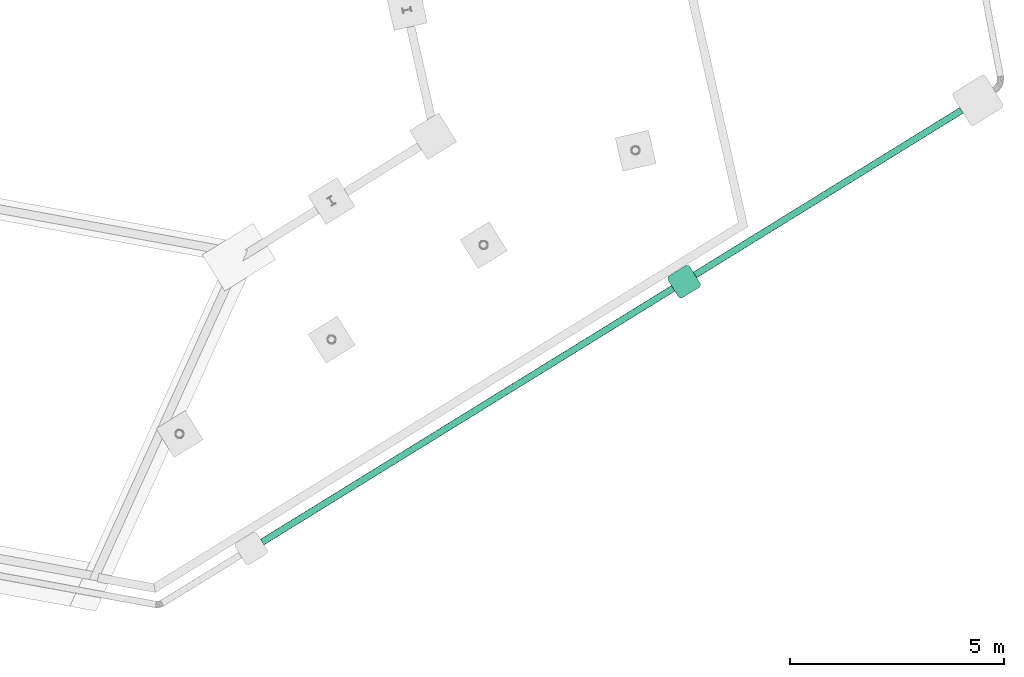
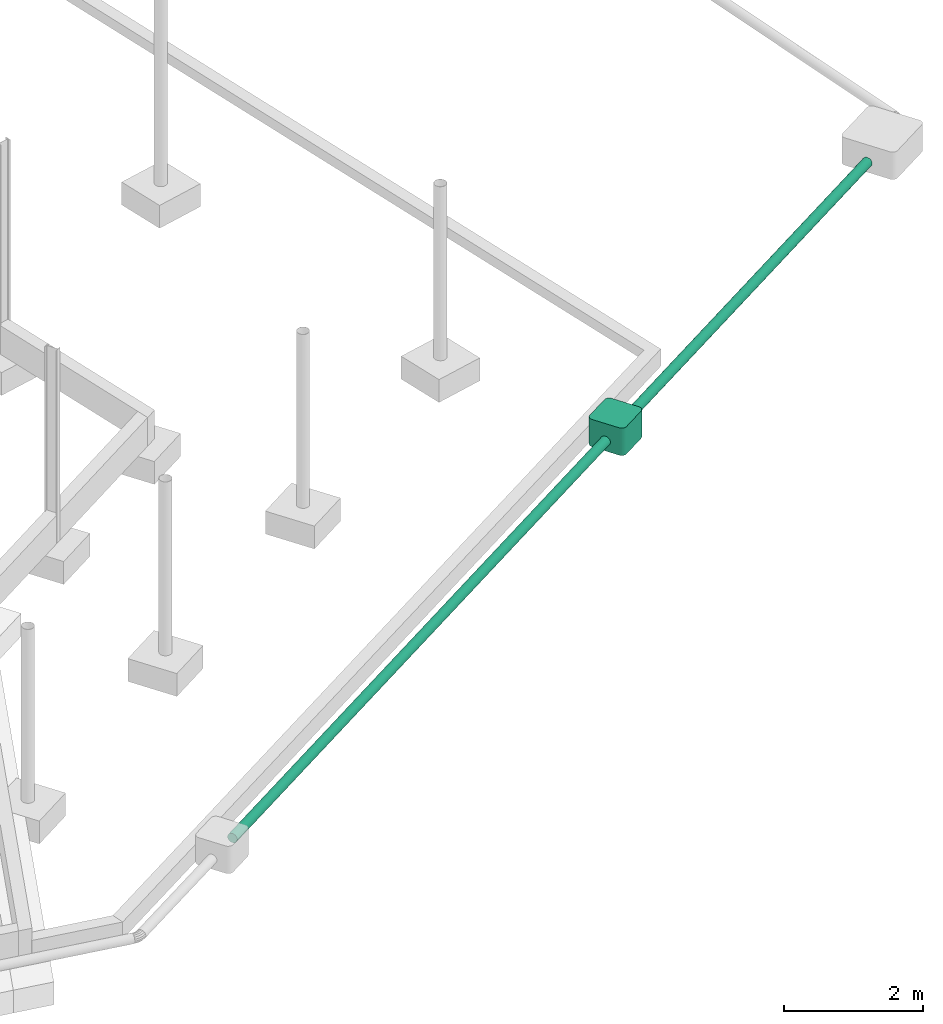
# One storey, part 9 of 17: 2 flow segments, 1 flow controller.
"""IFC2X3 building model written with IfcOpenShell, lengths in centimetres."""

from ifc_helpers import new_model, entity, si_unit, converted_unit, derived_unit, direction, frame, frame_2d, origin, origin_2d_with_axis, place, context, subcontext, project, spatial, circle, extrude, faceted_brep, source, transform, mapped, material, type_object, type_shapes, element, save


model = new_model("IFC2X3")

# Units and contexts
model_context = context("Model", 3, precision=0.001, world=origin(), true_north=direction((6.12303176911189e-17, 1.0)))
body_context = subcontext(model_context, "Body", "Model", "MODEL_VIEW")
ifc_project = project(units=[si_unit("LENGTHUNIT", "METRE", prefix="CENTI"), si_unit("AREAUNIT", "SQUARE_METRE"), si_unit("VOLUMEUNIT", "CUBIC_METRE"), converted_unit("PLANEANGLEUNIT", "DEGREE", entity("IfcRatioMeasure", 0.0174532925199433), si_unit("PLANEANGLEUNIT", "RADIAN"), dimensions=[0, 0, 0, 0, 0, 0, 0]), si_unit("MASSUNIT", "GRAM", prefix="KILO"), derived_unit("MASSDENSITYUNIT", [(si_unit("MASSUNIT", "GRAM", prefix="KILO"), 1), (si_unit("LENGTHUNIT", "METRE"), -3)]), si_unit("TIMEUNIT", "SECOND"), si_unit("FREQUENCYUNIT", "HERTZ"), si_unit("THERMODYNAMICTEMPERATUREUNIT", "DEGREE_CELSIUS"), derived_unit("THERMALTRANSMITTANCEUNIT", [(si_unit("MASSUNIT", "GRAM", prefix="KILO"), 1), (si_unit("THERMODYNAMICTEMPERATUREUNIT", "KELVIN"), -1), (si_unit("TIMEUNIT", "SECOND"), -3)]), derived_unit("VOLUMETRICFLOWRATEUNIT", [(si_unit("LENGTHUNIT", "METRE"), 3), (si_unit("TIMEUNIT", "SECOND"), -1)]), si_unit("ELECTRICCURRENTUNIT", "AMPERE"), si_unit("ELECTRICVOLTAGEUNIT", "VOLT"), si_unit("POWERUNIT", "WATT"), si_unit("FORCEUNIT", "NEWTON", prefix="KILO"), si_unit("ILLUMINANCEUNIT", "LUX"), si_unit("LUMINOUSFLUXUNIT", "LUMEN"), si_unit("LUMINOUSINTENSITYUNIT", "CANDELA"), derived_unit("USERDEFINED", [(si_unit("MASSUNIT", "GRAM", prefix="KILO"), -1), (si_unit("LENGTHUNIT", "METRE"), -2), (si_unit("TIMEUNIT", "SECOND"), 3), (si_unit("LUMINOUSFLUXUNIT", "LUMEN"), 1)]), derived_unit("LINEARVELOCITYUNIT", [(si_unit("LENGTHUNIT", "METRE"), 1), (si_unit("TIMEUNIT", "SECOND"), -1)]), si_unit("PRESSUREUNIT", "PASCAL"), derived_unit("USERDEFINED", [(si_unit("LENGTHUNIT", "METRE"), -2), (si_unit("MASSUNIT", "GRAM", prefix="KILO"), 1), (si_unit("TIMEUNIT", "SECOND"), -2)])], contexts=[model_context])

# Site, building, storey
site_placement = place(None, frame((2611.71187422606, 13650.4058644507, 0.0), z_axis=(0.0, 0.0, 1.0), x_axis=(0.0673222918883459, -0.997731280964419, 0.0)))
site = spatial("IfcSite", under=ifc_project, at=site_placement, Name="Surface", CompositionType="ELEMENT")
building_placement = place(site_placement, origin())
building = spatial("IfcBuilding", under=site, at=building_placement, CompositionType="ELEMENT")
storey_placement = place(building_placement, frame((0.0, 0.0, 86950.0)))
storey = spatial("IfcBuildingStorey", under=building, at=storey_placement, Name="-1 Soubassement", CompositionType="ELEMENT", Elevation=86950.0)

# Flow controller
ifc_material = material(Name="Béton, précoulé")
valve_type = type_object("IfcValveType", Name="Regard EP 600x600", PredefinedType="NOTDEFINED", material=ifc_material)
shared_shape = source(origin(), body_context, "Body", "Brep", [
    faceted_brep([(56.1595272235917, 59.0877304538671, 48.0), (54.2300795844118, 59.8869338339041, 48.0), (52.1595272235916, 60.1595272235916, 48.0), (8.15952722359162, 60.1595272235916, 48.0), (6.08897486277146, 59.8869338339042, 48.0), (4.15952722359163, 59.0877304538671, 48.0), (2.50267297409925, 57.816381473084, 48.0), (1.23132399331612, 56.1595272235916, 48.0), (0.432120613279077, 54.2300795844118, 48.0), (0.159527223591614, 52.1595272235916, 48.0), (0.1595272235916, 8.15952722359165, 48.0), (0.432120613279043, 6.08897486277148, 48.0), (1.23132399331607, 4.15952722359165, 48.0), (2.50267297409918, 2.50267297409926, 48.0), (4.15952722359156, 1.23132399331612, 48.0), (6.08897486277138, 0.43212061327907, 48.0), (8.15952722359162, 0.159527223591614, 48.0), (52.1595272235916, 0.159527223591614, 48.0), (54.2300795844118, 0.43212061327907, 48.0), (56.1595272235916, 1.2313239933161, 48.0), (57.816381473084, 2.50267297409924, 48.0), (59.0877304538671, 4.15952722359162, 48.0), (59.8869338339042, 6.08897486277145, 48.0), (60.1595272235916, 8.15952722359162, 48.0), (60.1595272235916, 52.1595272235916, 48.0), (59.8869338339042, 54.2300795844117, 48.0), (59.0877304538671, 56.1595272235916, 48.0), (57.816381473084, 57.816381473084, 48.0), (2.50267297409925, 57.816381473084, 43.0), (4.15952722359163, 59.0877304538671, 43.0), (6.08897486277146, 59.8869338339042, 43.0), (8.15952722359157, 60.1595272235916, 43.0), (52.1595272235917, 60.1595272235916, 43.0), (54.2300795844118, 59.8869338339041, 43.0), (56.1595272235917, 59.0877304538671, 43.0), (57.816381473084, 57.816381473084, 43.0), (59.0877304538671, 56.1595272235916, 43.0), (59.8869338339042, 54.2300795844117, 43.0), (60.1595272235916, 52.1595272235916, 43.0), (60.1595272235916, 8.15952722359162, 43.0), (59.8869338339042, 6.08897486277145, 43.0), (59.0877304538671, 4.15952722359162, 43.0), (57.816381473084, 2.50267297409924, 43.0), (56.1595272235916, 1.2313239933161, 43.0), (54.2300795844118, 0.43212061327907, 43.0), (52.1595272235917, 0.159527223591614, 43.0), (8.15952722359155, 0.1595272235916, 43.0), (6.08897486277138, 0.43212061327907, 43.0), (4.15952722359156, 1.23132399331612, 43.0), (2.50267297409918, 2.50267297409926, 43.0), (1.23132399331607, 4.15952722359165, 43.0), (0.432120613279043, 6.08897486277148, 43.0), (0.1595272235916, 8.1595272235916, 43.0), (0.159527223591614, 52.1595272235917, 43.0), (0.432120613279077, 54.2300795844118, 43.0), (1.23132399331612, 56.1595272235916, 43.0)], [[[0, 1, 2, 3, 4, 5, 6, 7, 8, 9, 10, 11, 12, 13, 14, 15, 16, 17, 18, 19, 20, 21, 22, 23, 24, 25, 26, 27]], [[28, 29, 30, 31, 32, 33, 34, 35, 36, 37, 38, 39, 40, 41, 42, 43, 44, 45, 46, 47, 48, 49, 50, 51, 52, 53, 54, 55]], [[3, 2, 32, 31]], [[4, 3, 31, 30]], [[5, 4, 30, 29]], [[6, 5, 29, 28]], [[54, 53, 9, 8]], [[7, 6, 28, 55]], [[55, 54, 8, 7]], [[10, 9, 53, 52]], [[11, 10, 52, 51]], [[12, 11, 51, 50]], [[13, 12, 50, 49]], [[47, 46, 16, 15]], [[14, 48, 47, 15]], [[48, 14, 13, 49]], [[17, 16, 46, 45]], [[18, 17, 45, 44]], [[19, 18, 44, 43]], [[20, 19, 43, 42]], [[42, 41, 21, 20]], [[21, 41, 40, 22]], [[23, 22, 40, 39]], [[24, 23, 39, 38]], [[25, 24, 38, 37]], [[26, 25, 37, 36]], [[27, 26, 36, 35]], [[0, 27, 35, 34]], [[0, 34, 33, 1]], [[33, 32, 2, 1]]]),
    faceted_brep([(6.08897486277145, 59.8869338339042, 0.0), (8.15952722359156, 60.1595272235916, 0.0), (52.1595272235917, 60.1595272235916, 0.0), (54.2300795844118, 59.8869338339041, 0.0), (56.1595272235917, 59.0877304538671, 0.0), (57.816381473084, 57.816381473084, 0.0), (59.0877304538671, 56.1595272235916, 0.0), (59.8869338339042, 54.2300795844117, 0.0), (60.1595272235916, 52.1595272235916, 0.0), (60.1595272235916, 8.15952722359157, 0.0), (59.8869338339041, 6.0889748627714, 0.0), (59.0877304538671, 4.15952722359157, 0.0), (57.816381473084, 2.5026729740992, 0.0), (56.1595272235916, 1.23132399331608, 0.0), (54.2300795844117, 0.432120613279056, 0.0), (52.1595272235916, 0.159527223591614, 0.0), (8.15952722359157, 0.159527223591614, 0.0), (6.0889748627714, 0.432120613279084, 0.0), (4.15952722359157, 1.23132399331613, 0.0), (2.5026729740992, 2.50267297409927, 0.0), (1.23132399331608, 4.15952722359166, 0.0), (0.432120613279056, 6.08897486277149, 0.0), (0.159527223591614, 8.15952722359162, 0.0), (0.159527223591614, 52.1595272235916, 0.0), (0.43212061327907, 54.2300795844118, 0.0), (1.23132399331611, 56.1595272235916, 0.0), (2.50267297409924, 57.816381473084, 0.0), (4.15952722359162, 59.0877304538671, 0.0), (52.1595272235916, 60.1595272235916, 5.0), (8.15952722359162, 60.1595272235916, 5.0), (6.08897486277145, 59.8869338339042, 5.0), (4.15952722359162, 59.0877304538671, 5.0), (2.50267297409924, 57.816381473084, 5.0), (1.23132399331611, 56.1595272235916, 5.0), (0.43212061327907, 54.2300795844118, 5.0), (0.159527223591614, 52.1595272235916, 5.0), (0.159527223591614, 8.15952722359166, 5.0), (0.432120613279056, 6.08897486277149, 5.0), (1.23132399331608, 4.15952722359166, 5.0), (2.5026729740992, 2.50267297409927, 5.0), (4.15952722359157, 1.23132399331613, 5.0), (6.0889748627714, 0.432120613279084, 5.0), (8.15952722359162, 0.159527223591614, 5.0), (52.1595272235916, 0.159527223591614, 5.0), (54.2300795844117, 0.432120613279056, 5.0), (56.1595272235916, 1.23132399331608, 5.0), (57.816381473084, 2.5026729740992, 5.0), (59.0877304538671, 4.15952722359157, 5.0), (59.8869338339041, 6.0889748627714, 5.0), (60.1595272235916, 8.15952722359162, 5.0), (60.1595272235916, 52.1595272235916, 5.0), (59.8869338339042, 54.2300795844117, 5.0), (59.0877304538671, 56.1595272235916, 5.0), (57.816381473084, 57.816381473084, 5.0), (56.1595272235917, 59.0877304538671, 5.0), (54.2300795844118, 59.8869338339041, 5.0)], [[[0, 1, 2, 3, 4, 5, 6, 7, 8, 9, 10, 11, 12, 13, 14, 15, 16, 17, 18, 19, 20, 21, 22, 23, 24, 25, 26, 27]], [[28, 29, 30, 31, 32, 33, 34, 35, 36, 37, 38, 39, 40, 41, 42, 43, 44, 45, 46, 47, 48, 49, 50, 51, 52, 53, 54, 55]], [[29, 28, 2, 1]], [[36, 35, 23, 22]], [[43, 42, 16, 15]], [[50, 49, 9, 8]], [[30, 29, 1, 0]], [[31, 30, 0, 27]], [[32, 31, 27, 26]], [[24, 23, 35, 34]], [[33, 32, 26, 25]], [[25, 24, 34, 33]], [[37, 36, 22, 21]], [[38, 37, 21, 20]], [[39, 38, 20, 19]], [[17, 16, 42, 41]], [[40, 18, 17, 41]], [[18, 40, 39, 19]], [[44, 43, 15, 14]], [[45, 44, 14, 13]], [[46, 45, 13, 12]], [[12, 11, 47, 46]], [[47, 11, 10, 48]], [[49, 48, 10, 9]], [[51, 50, 8, 7]], [[52, 51, 7, 6]], [[53, 52, 6, 5]], [[54, 53, 5, 4]], [[54, 4, 3, 55]], [[3, 2, 28, 55]]]),
    faceted_brep([(56.1595272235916, 1.23132399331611, 43.0), (53.6595272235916, 5.56145101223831, 43.0), (54.2300795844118, 0.432120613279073, 43.0), (54.2808475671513, 6.03820688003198, 43.0), (57.816381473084, 2.50267297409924, 43.0), (59.0877304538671, 4.15952722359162, 43.0), (54.7576034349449, 6.65952722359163, 43.0), (59.8869338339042, 6.08897486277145, 43.0), (55.0573047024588, 7.38307008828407, 43.0), (60.1595272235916, 8.15952722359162, 43.0), (55.1595272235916, 8.15952722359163, 43.0), (55.1595272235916, 52.1595272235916, 43.0), (60.1595272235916, 52.1595272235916, 43.0), (55.0573047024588, 52.9359843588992, 43.0), (59.8869338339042, 54.2300795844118, 43.0), (54.7576034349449, 53.6595272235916, 43.0), (59.0877304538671, 56.1595272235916, 43.0), (54.2808475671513, 54.2808475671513, 43.0), (57.816381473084, 57.816381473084, 43.0), (56.1595272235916, 59.0877304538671, 43.0), (53.6595272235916, 54.7576034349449, 43.0), (54.2300795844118, 59.8869338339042, 43.0), (52.9359843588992, 55.0573047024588, 43.0), (52.1595272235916, 60.1595272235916, 43.0), (52.1595272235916, 55.1595272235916, 43.0), (8.15952722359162, 55.1595272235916, 43.0), (8.15952722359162, 60.1595272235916, 43.0), (7.38307008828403, 55.0573047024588, 43.0), (6.08897486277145, 59.8869338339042, 43.0), (6.6595272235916, 54.7576034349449, 43.0), (4.15952722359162, 59.0877304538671, 43.0), (6.03820688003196, 54.2808475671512, 43.0), (2.50267297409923, 57.816381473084, 43.0), (1.2313239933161, 56.1595272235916, 43.0), (5.56145101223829, 53.6595272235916, 43.0), (0.43212061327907, 54.2300795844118, 43.0), (5.26174974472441, 52.9359843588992, 43.0), (0.159527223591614, 52.1595272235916, 43.0), (5.15952722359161, 52.1595272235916, 43.0), (0.159527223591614, 8.15952722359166, 43.0), (5.15952722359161, 8.1595272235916, 43.0), (5.26174974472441, 7.38307008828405, 43.0), (0.432120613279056, 6.08897486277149, 43.0), (5.5614510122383, 6.65952722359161, 43.0), (1.23132399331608, 4.15952722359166, 43.0), (6.03820688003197, 6.03820688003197, 43.0), (2.5026729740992, 2.50267297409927, 43.0), (4.15952722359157, 1.23132399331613, 43.0), (6.65952722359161, 5.56145101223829, 43.0), (6.0889748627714, 0.43212061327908, 43.0), (7.38307008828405, 5.26174974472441, 43.0), (8.15952722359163, 0.15952722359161, 43.0), (8.15952722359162, 5.15952722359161, 43.0), (52.1595272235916, 0.15952722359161, 43.0), (52.9359843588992, 5.26174974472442, 43.0), (52.1595272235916, 5.15952722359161, 43.0), (56.1595272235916, 59.0877304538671, 5.0), (53.6595272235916, 54.7576034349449, 5.0), (54.2300795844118, 59.8869338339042, 5.0), (54.2808475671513, 54.2808475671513, 5.0), (57.816381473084, 57.816381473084, 5.0), (59.0877304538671, 56.1595272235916, 5.0), (54.7576034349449, 53.6595272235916, 5.0), (59.8869338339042, 54.2300795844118, 5.0), (55.0573047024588, 52.9359843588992, 5.0), (60.1595272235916, 52.1595272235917, 5.0), (55.1595272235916, 52.1595272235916, 5.0), (55.1595272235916, 8.15952722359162, 5.0), (60.1595272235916, 8.15952722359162, 5.0), (55.0573047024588, 7.38307008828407, 5.0), (59.8869338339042, 6.08897486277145, 5.0), (54.7576034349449, 6.65952722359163, 5.0), (59.0877304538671, 4.15952722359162, 5.0), (54.2808475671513, 6.03820688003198, 5.0), (57.816381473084, 2.50267297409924, 5.0), (56.1595272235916, 1.23132399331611, 5.0), (53.6595272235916, 5.56145101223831, 5.0), (54.2300795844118, 0.432120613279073, 5.0), (52.9359843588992, 5.26174974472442, 5.0), (52.1595272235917, 0.15952722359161, 5.0), (52.1595272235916, 5.15952722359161, 5.0), (8.1595272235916, 5.15952722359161, 5.0), (8.15952722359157, 0.15952722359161, 5.0), (7.38307008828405, 5.26174974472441, 5.0), (6.0889748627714, 0.43212061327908, 5.0), (6.65952722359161, 5.56145101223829, 5.0), (4.15952722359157, 1.23132399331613, 5.0), (6.03820688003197, 6.03820688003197, 5.0), (2.5026729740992, 2.50267297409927, 5.0), (1.23132399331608, 4.15952722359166, 5.0), (5.5614510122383, 6.65952722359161, 5.0), (0.432120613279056, 6.08897486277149, 5.0), (5.26174974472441, 7.38307008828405, 5.0), (0.159527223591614, 8.15952722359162, 5.0), (5.15952722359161, 8.15952722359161, 5.0), (0.159527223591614, 52.1595272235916, 5.0), (5.15952722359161, 52.1595272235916, 5.0), (5.26174974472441, 52.9359843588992, 5.0), (0.43212061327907, 54.2300795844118, 5.0), (5.56145101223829, 53.6595272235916, 5.0), (1.2313239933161, 56.1595272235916, 5.0), (6.03820688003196, 54.2808475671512, 5.0), (2.50267297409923, 57.816381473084, 5.0), (4.15952722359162, 59.0877304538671, 5.0), (6.6595272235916, 54.7576034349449, 5.0), (6.08897486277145, 59.8869338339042, 5.0), (7.38307008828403, 55.0573047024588, 5.0), (8.15952722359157, 60.1595272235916, 5.0), (8.1595272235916, 55.1595272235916, 5.0), (52.1595272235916, 60.1595272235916, 5.0), (52.9359843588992, 55.0573047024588, 5.0), (52.1595272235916, 55.1595272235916, 5.0), (34.1595272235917, 60.1595272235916, 24.9282032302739), (32.2300795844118, 60.1595272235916, 25.7274066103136), (35.8163814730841, 60.1595272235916, 23.6568542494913), (30.1595272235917, 60.1595272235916, 26.0), (37.0877304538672, 60.1595272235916, 22.0), (37.8869338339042, 60.1595272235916, 20.0705523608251), (38.1595272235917, 60.1595272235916, 18.0), (37.8869338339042, 60.1595272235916, 15.9294476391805), (37.0877304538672, 60.1595272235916, 14.0), (35.8163814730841, 60.1595272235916, 12.3431457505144), (34.1595272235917, 60.1595272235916, 11.0717967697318), (32.2300795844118, 60.1595272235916, 10.2725933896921), (30.1595272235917, 60.1595272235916, 10.0), (22.4321206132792, 60.1595272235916, 20.0705523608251), (28.0889748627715, 60.1595272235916, 10.2725933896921), (26.1595272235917, 60.1595272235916, 11.0717967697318), (24.5026729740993, 60.1595272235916, 12.3431457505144), (23.2313239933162, 60.1595272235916, 14.0), (22.4321206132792, 60.1595272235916, 15.9294476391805), (22.1595272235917, 60.1595272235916, 18.0), (23.2313239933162, 60.1595272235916, 22.0), (28.0889748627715, 60.1595272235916, 25.7274066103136), (26.1595272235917, 60.1595272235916, 24.9282032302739), (24.5026729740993, 60.1595272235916, 23.6568542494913), (26.15952722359, 0.15952722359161, 24.9282032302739), (28.0889748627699, 0.15952722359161, 25.7274066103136), (24.5026729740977, 0.15952722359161, 23.6568542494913), (30.15952722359, 0.15952722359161, 26.0), (23.2313239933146, 0.15952722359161, 22.0), (22.4321206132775, 0.15952722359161, 20.0705523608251), (22.1595272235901, 0.15952722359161, 18.0), (22.4321206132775, 0.15952722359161, 15.9294476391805), (23.2313239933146, 0.15952722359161, 14.0), (24.5026729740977, 0.15952722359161, 12.3431457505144), (26.1595272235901, 0.15952722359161, 11.0717967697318), (28.0889748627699, 0.15952722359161, 10.2725933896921), (30.1595272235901, 0.15952722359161, 10.0), (37.8869338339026, 0.15952722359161, 20.0705523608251), (32.2300795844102, 0.15952722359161, 10.2725933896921), (34.1595272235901, 0.15952722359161, 11.0717967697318), (35.8163814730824, 0.15952722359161, 12.3431457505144), (37.0877304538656, 0.15952722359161, 14.0), (37.8869338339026, 0.15952722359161, 15.9294476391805), (38.1595272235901, 0.15952722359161, 18.0), (37.0877304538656, 0.15952722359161, 22.0), (32.2300795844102, 0.15952722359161, 25.7274066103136), (34.15952722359, 0.15952722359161, 24.9282032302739), (35.8163814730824, 0.15952722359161, 23.6568542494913), (22.1595272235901, 5.15952722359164, 18.0), (22.4321206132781, 5.15952722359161, 15.9294476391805), (22.1595272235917, 55.1595272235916, 18.0), (22.4321206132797, 55.1595272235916, 15.9294476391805), (23.2313239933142, 5.15952722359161, 14.0), (23.2313239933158, 55.1595272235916, 14.0), (26.1595272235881, 5.15952722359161, 11.0717967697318), (24.5026729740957, 5.15952722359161, 12.3431457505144), (24.5026729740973, 55.1595272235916, 12.3431457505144), (26.1595272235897, 55.1595272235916, 11.0717967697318), (28.0889748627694, 5.15952722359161, 10.2725933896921), (28.088974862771, 55.1595272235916, 10.2725933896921), (30.15952722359, 5.15952722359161, 10.0), (30.1595272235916, 55.1595272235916, 10.0), (32.2300795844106, 5.15952722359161, 10.2725933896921), (32.2300795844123, 55.1595272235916, 10.2725933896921), (37.8869338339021, 5.15952722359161, 15.9294476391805), (37.087730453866, 5.15952722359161, 14.0), (37.0877304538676, 55.1595272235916, 14.0), (37.8869338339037, 55.1595272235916, 15.9294476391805), (35.8163814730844, 5.15952722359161, 12.3431457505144), (35.816381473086, 55.1595272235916, 12.3431457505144), (38.1595272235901, 5.15952722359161, 18.0), (38.1595272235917, 55.1595272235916, 18.0), (34.1595272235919, 5.15952722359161, 11.0717967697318), (34.1595272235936, 55.1595272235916, 11.0717967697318), (37.8869338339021, 5.15952722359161, 20.0705523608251), (37.8869338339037, 55.1595272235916, 20.0705523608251), (37.087730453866, 5.15952722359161, 22.0), (37.0877304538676, 55.1595272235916, 22.0), (34.159527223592, 5.15952722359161, 24.9282032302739), (35.8163814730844, 5.15952722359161, 23.6568542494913), (35.816381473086, 55.1595272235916, 23.6568542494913), (34.1595272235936, 55.1595272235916, 24.9282032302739), (32.2300795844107, 5.15952722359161, 25.7274066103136), (32.2300795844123, 55.1595272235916, 25.7274066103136), (30.15952722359, 5.15952722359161, 26.0), (30.1595272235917, 55.1595272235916, 26.0), (26.1595272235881, 5.15952722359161, 24.9282032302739), (24.5026729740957, 5.15952722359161, 23.6568542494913), (26.1595272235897, 55.1595272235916, 24.9282032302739), (24.5026729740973, 55.1595272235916, 23.6568542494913), (22.4321206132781, 5.15952722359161, 20.0705523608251), (23.2313239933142, 5.15952722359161, 22.0), (23.2313239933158, 55.1595272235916, 22.0), (22.4321206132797, 55.1595272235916, 20.0705523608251), (28.0889748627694, 5.15952722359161, 25.7274066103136), (28.088974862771, 55.1595272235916, 25.7274066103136), (8.15952722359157, 55.1595272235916, 23.8751470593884), (52.1595272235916, 55.1595272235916, 24.1248529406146), (53.3075775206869, 54.9311658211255, 24.0), (52.7444457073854, 55.1019531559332, 21.2463431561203), (54.9311658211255, 53.3075775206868, 24.0), (55.1018157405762, 52.7451365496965, 21.2342534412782), (53.9858115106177, 54.5395872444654, 24.0), (54.5395872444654, 53.9858115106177, 24.0), (55.1595272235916, 52.1595272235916, 23.8751470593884), (55.1595272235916, 8.15952722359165, 24.1248529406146), (54.5395872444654, 6.33324293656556, 24.0), (53.3075775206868, 5.38788862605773, 24.0), (52.7451365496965, 5.21723870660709, 21.2342534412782), (54.9311658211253, 7.01147692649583, 24.0), (55.1018157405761, 7.57391789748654, 26.7657465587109), (53.9858115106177, 5.77946720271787, 24.0), (52.1595272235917, 5.15952722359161, 23.8751470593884), (8.15952722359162, 5.15952722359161, 24.1248529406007), (7.57460873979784, 5.21710129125, 21.2463431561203), (7.01147692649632, 5.38788862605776, 24.0), (5.38788862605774, 7.01147692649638, 24.0), (5.21723870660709, 7.57391789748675, 21.2342534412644), (6.33324293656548, 5.77946720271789, 24.0), (5.77946720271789, 6.33324293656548, 24.0), (5.15952722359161, 8.15952722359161, 23.8751470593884), (5.15952722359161, 52.1595272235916, 24.1248529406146), (5.21710129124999, 52.7444457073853, 21.2463431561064), (5.38788862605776, 53.3075775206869, 24.0), (7.01147692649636, 54.9311658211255, 24.0), (7.57391789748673, 55.1018157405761, 21.2342534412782), (5.77946720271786, 53.9858115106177, 24.0), (6.33324293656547, 54.5395872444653, 24.0)], [[[0, 1, 2]], [[1, 0, 3]], [[4, 3, 0]], [[4, 5, 3]], [[5, 6, 3]], [[5, 7, 6]], [[8, 6, 7]], [[8, 7, 9]], [[8, 9, 10]], [[10, 9, 11]], [[12, 11, 9]], [[13, 11, 12]], [[13, 12, 14]], [[15, 13, 14]], [[16, 15, 14]], [[17, 15, 16]], [[18, 17, 16]], [[18, 19, 17]], [[19, 20, 17]], [[19, 21, 20]], [[20, 21, 22]], [[21, 23, 22]], [[24, 22, 23]], [[24, 23, 25]], [[26, 25, 23]], [[27, 25, 26]], [[27, 26, 28]], [[27, 28, 29]], [[28, 30, 29]], [[31, 29, 30]], [[31, 30, 32]], [[31, 32, 33]], [[33, 34, 31]], [[35, 34, 33]], [[35, 36, 34]], [[36, 35, 37]], [[37, 38, 36]], [[38, 37, 39]], [[39, 40, 38]], [[40, 39, 41]], [[42, 41, 39]], [[41, 42, 43]], [[43, 42, 44]], [[43, 44, 45]], [[45, 44, 46]], [[45, 46, 47]], [[45, 47, 48]], [[47, 49, 48]], [[50, 48, 49]], [[51, 50, 49]], [[51, 52, 50]], [[52, 51, 53]], [[53, 2, 54]], [[54, 55, 53]], [[53, 55, 52]], [[54, 2, 1]], [[56, 57, 58]], [[57, 56, 59]], [[60, 59, 56]], [[60, 61, 59]], [[61, 62, 59]], [[61, 63, 62]], [[64, 62, 63]], [[64, 63, 65]], [[64, 65, 66]], [[66, 65, 67]], [[68, 67, 65]], [[69, 67, 68]], [[69, 68, 70]], [[71, 69, 70]], [[72, 71, 70]], [[73, 71, 72]], [[74, 73, 72]], [[74, 75, 73]], [[75, 76, 73]], [[75, 77, 76]], [[76, 77, 78]], [[77, 79, 78]], [[80, 78, 79]], [[80, 79, 81]], [[82, 81, 79]], [[83, 81, 82]], [[83, 82, 84]], [[83, 84, 85]], [[84, 86, 85]], [[87, 85, 86]], [[87, 86, 88]], [[87, 88, 89]], [[89, 90, 87]], [[91, 90, 89]], [[91, 92, 90]], [[92, 91, 93]], [[93, 94, 92]], [[94, 93, 95]], [[95, 96, 94]], [[96, 95, 97]], [[98, 97, 95]], [[97, 98, 99]], [[99, 98, 100]], [[99, 100, 101]], [[101, 100, 102]], [[101, 102, 103]], [[101, 103, 104]], [[103, 105, 104]], [[106, 104, 105]], [[107, 106, 105]], [[107, 108, 106]], [[108, 107, 109]], [[109, 58, 110]], [[110, 111, 109]], [[109, 111, 108]], [[110, 58, 57]], [[12, 9, 68, 65]], [[23, 112, 113]], [[112, 23, 114]], [[23, 113, 115]], [[116, 114, 23]], [[117, 116, 23]], [[117, 23, 109]], [[115, 26, 23]], [[109, 118, 117]], [[119, 118, 109]], [[120, 119, 109]], [[121, 120, 109]], [[109, 122, 121]], [[122, 109, 123]], [[124, 123, 109]], [[109, 107, 124]], [[26, 125, 107]], [[126, 124, 107]], [[127, 126, 107]], [[107, 128, 127]], [[128, 107, 129]], [[130, 129, 107]], [[131, 130, 107]], [[131, 107, 125]], [[132, 125, 26]], [[26, 115, 133]], [[26, 133, 134]], [[134, 135, 26]], [[135, 132, 26]], [[39, 37, 95, 93]], [[51, 136, 137]], [[136, 51, 138]], [[51, 137, 139]], [[140, 138, 51]], [[141, 140, 51]], [[141, 51, 82]], [[139, 53, 51]], [[82, 142, 141]], [[143, 142, 82]], [[144, 143, 82]], [[145, 144, 82]], [[82, 146, 145]], [[146, 82, 147]], [[148, 147, 82]], [[82, 79, 148]], [[53, 149, 79]], [[150, 148, 79]], [[151, 150, 79]], [[79, 152, 151]], [[152, 79, 153]], [[154, 153, 79]], [[155, 154, 79]], [[155, 79, 149]], [[156, 149, 53]], [[53, 139, 157]], [[53, 157, 158]], [[158, 159, 53]], [[159, 156, 53]], [[160, 142, 143, 161]], [[131, 162, 163, 130]], [[161, 143, 144, 164]], [[130, 163, 165, 129]], [[166, 167, 145, 146]], [[127, 128, 168, 169]], [[145, 167, 164, 144]], [[168, 128, 129, 165]], [[170, 166, 146, 147]], [[126, 127, 169, 171]], [[170, 147, 148, 172]], [[126, 171, 173, 124]], [[150, 174, 172, 148]], [[175, 123, 124, 173]], [[176, 177, 153, 154]], [[119, 120, 178, 179]], [[180, 152, 153, 177]], [[121, 181, 178, 120]], [[176, 154, 155, 182]], [[119, 179, 183, 118]], [[151, 184, 174, 150]], [[185, 122, 123, 175]], [[151, 152, 180, 184]], [[185, 181, 121, 122]], [[182, 155, 149, 186]], [[118, 183, 187, 117]], [[186, 149, 156, 188]], [[117, 187, 189, 116]], [[190, 191, 159, 158]], [[112, 114, 192, 193]], [[159, 191, 188, 156]], [[192, 114, 116, 189]], [[194, 190, 158, 157]], [[113, 112, 193, 195]], [[194, 157, 139, 196]], [[113, 195, 197, 115]], [[198, 136, 138, 199]], [[134, 200, 201, 135]], [[202, 203, 140, 141]], [[125, 132, 204, 205]], [[203, 199, 138, 140]], [[132, 135, 201, 204]], [[160, 202, 141, 142]], [[131, 125, 205, 162]], [[206, 137, 136, 198]], [[133, 207, 200, 134]], [[206, 196, 139, 137]], [[133, 115, 197, 207]], [[14, 63, 61, 16]], [[16, 61, 60, 18]], [[12, 65, 63, 14]], [[19, 56, 58, 21]], [[21, 58, 109, 23]], [[18, 60, 56, 19]], [[28, 105, 103, 30]], [[30, 103, 102, 32]], [[107, 105, 28, 26]], [[33, 100, 98, 35]], [[35, 98, 95, 37]], [[32, 102, 100, 33]], [[42, 91, 89, 44]], [[44, 89, 88, 46]], [[93, 91, 42, 39]], [[47, 86, 84, 49]], [[49, 84, 82, 51]], [[46, 88, 86, 47]], [[2, 77, 75, 0]], [[0, 75, 74, 4]], [[79, 77, 2, 53]], [[5, 72, 70, 7]], [[7, 70, 68, 9]], [[4, 74, 72, 5]], [[25, 200, 207]], [[200, 25, 201]], [[25, 207, 197]], [[204, 201, 25]], [[205, 204, 25]], [[205, 25, 208]], [[197, 24, 25]], [[205, 208, 108]], [[108, 162, 205]], [[163, 162, 108]], [[165, 163, 108]], [[168, 165, 108]], [[108, 169, 168]], [[169, 108, 171]], [[173, 171, 108]], [[108, 111, 173]], [[175, 173, 111]], [[185, 175, 111]], [[111, 181, 185]], [[181, 111, 178]], [[179, 178, 111]], [[183, 179, 111]], [[183, 111, 187]], [[187, 111, 209]], [[187, 209, 24]], [[24, 197, 195]], [[24, 195, 193]], [[193, 192, 24]], [[189, 187, 24]], [[192, 189, 24]], [[210, 22, 211]], [[212, 213, 13]], [[24, 209, 111, 211]], [[20, 22, 210]], [[24, 211, 22]], [[20, 210, 214]], [[214, 57, 59]], [[211, 110, 210]], [[57, 210, 110]], [[17, 214, 215]], [[216, 11, 213, 66]], [[215, 15, 17]], [[213, 11, 13]], [[64, 212, 62]], [[212, 13, 15]], [[57, 214, 210]], [[215, 62, 212]], [[62, 215, 59]], [[212, 64, 213]], [[64, 66, 213]], [[20, 214, 17]], [[215, 214, 59]], [[110, 211, 111]], [[15, 215, 212]], [[11, 216, 66, 67, 217, 10]], [[6, 218, 3]], [[219, 220, 54]], [[221, 6, 8]], [[221, 8, 222]], [[1, 223, 219]], [[8, 10, 222]], [[6, 221, 218]], [[218, 71, 73]], [[222, 10, 217, 67]], [[71, 221, 69]], [[3, 218, 223]], [[224, 55, 220, 80]], [[223, 1, 3]], [[221, 222, 69]], [[220, 55, 54]], [[219, 54, 1]], [[222, 67, 69]], [[223, 76, 219]], [[219, 78, 220]], [[78, 80, 220]], [[71, 218, 221]], [[78, 219, 76]], [[223, 218, 73]], [[76, 223, 73]], [[55, 190, 194]], [[190, 55, 191]], [[55, 194, 196]], [[188, 191, 55]], [[186, 188, 55]], [[186, 55, 224]], [[196, 52, 55]], [[186, 224, 80]], [[80, 182, 186]], [[176, 182, 80]], [[177, 176, 80]], [[180, 177, 80]], [[80, 184, 180]], [[184, 80, 174]], [[172, 174, 80]], [[80, 81, 172]], [[170, 172, 81]], [[166, 170, 81]], [[81, 167, 166]], [[167, 81, 164]], [[161, 164, 81]], [[160, 161, 81]], [[160, 81, 202]], [[202, 81, 225]], [[202, 225, 52]], [[52, 196, 206]], [[52, 206, 198]], [[198, 199, 52]], [[203, 202, 52]], [[199, 203, 52]], [[226, 227, 50]], [[228, 229, 41]], [[52, 225, 81, 226]], [[227, 48, 50]], [[52, 226, 50]], [[85, 227, 83]], [[230, 85, 87]], [[226, 83, 227]], [[48, 227, 230]], [[45, 230, 231]], [[232, 40, 229, 94]], [[231, 43, 45]], [[229, 40, 41]], [[92, 228, 90]], [[228, 41, 43]], [[48, 230, 45]], [[231, 90, 228]], [[90, 231, 87]], [[228, 92, 229]], [[92, 94, 229]], [[43, 231, 228]], [[231, 230, 87]], [[83, 226, 81]], [[85, 230, 227]], [[40, 232, 94, 96, 233, 38]], [[234, 235, 36]], [[236, 237, 27]], [[38, 233, 96, 234]], [[235, 34, 36]], [[38, 234, 36]], [[99, 235, 97]], [[238, 99, 101]], [[234, 97, 235]], [[34, 235, 238]], [[31, 238, 239]], [[208, 25, 237, 108]], [[239, 29, 31]], [[237, 25, 27]], [[106, 236, 104]], [[236, 27, 29]], [[34, 238, 31]], [[239, 104, 236]], [[104, 239, 101]], [[236, 106, 237]], [[106, 108, 237]], [[29, 239, 236]], [[239, 238, 101]], [[97, 234, 96]], [[99, 238, 235]]]),
])
type_shapes(valve_type, [shared_shape])
flow_controller_placement = place(storey_placement, frame((4626.9913733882, 1669.92805674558, 0.0), z_axis=(0.0, 0.0, 1.0), x_axis=(-0.88433550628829, -0.466851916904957, 0.0)))
element("IfcFlowController", 1, at=flow_controller_placement, inside=storey, type_object=valve_type, material=ifc_material, Name="Regard Eau pluviale 2:Regard EP 600x600", ObjectType="Regard Eau pluviale 2:Regard EP 600x600", context=body_context, shape_type="MappedRepresentation", body=[
    mapped(shared_shape, transform((0.0, 0.0, 0.0), scale=1.0)),
])

# Flow segments
pipe_segment_type = type_object("IfcPipeSegmentType", Name="Canalisation:Canalisation EP", PredefinedType="NOTDEFINED")
flow_segment_1_placement = place(storey_placement, origin())
element("IfcFlowSegment", 2, at=flow_segment_1_placement, inside=storey, type_object=pipe_segment_type, Name="Canalisation:Canalisation EP", ObjectType="Canalisation:Canalisation EP", context=body_context, shape_type="SweptSolid", body=[
    extrude(circle(Radius=8.0, at=frame_2d((-2.02215438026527e-13, 0.0), x_axis=(1.0, 0.0))), frame((4628.40582321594, 1602.64681768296, 18.0), z_axis=(0.466851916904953, -0.884335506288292, 0.0), x_axis=(-0.884335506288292, -0.466851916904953, 0.0)), (0.0, 0.0, 1.0), 1130.48),
])
flow_segment_2_placement = place(storey_placement, origin())
element("IfcFlowSegment", 3, at=flow_segment_2_placement, inside=storey, type_object=pipe_segment_type, Name="Canalisation:Canalisation EP", ObjectType="Canalisation:Canalisation EP", context=body_context, shape_type="SweptSolid", body=[
    extrude(circle(Radius=8.0, at=origin_2d_with_axis()), frame((4600.39470820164, 1655.70694806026, 18.0), z_axis=(-0.466851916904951, 0.884335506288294, 0.0), x_axis=(0.884335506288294, 0.466851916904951, 0.0)), (0.0, 0.0, 1.0), 733.202022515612),
])

save(model, "model.ifc")
